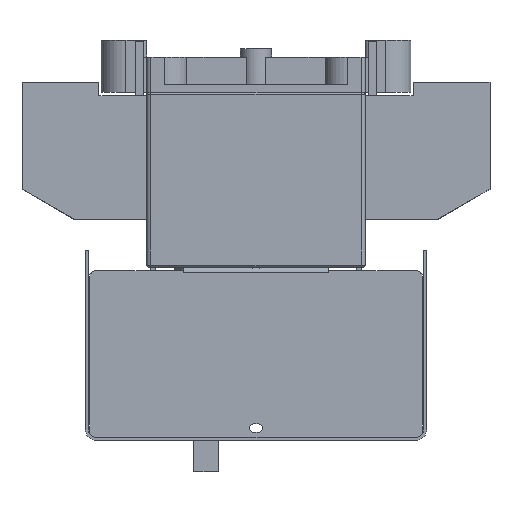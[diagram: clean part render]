
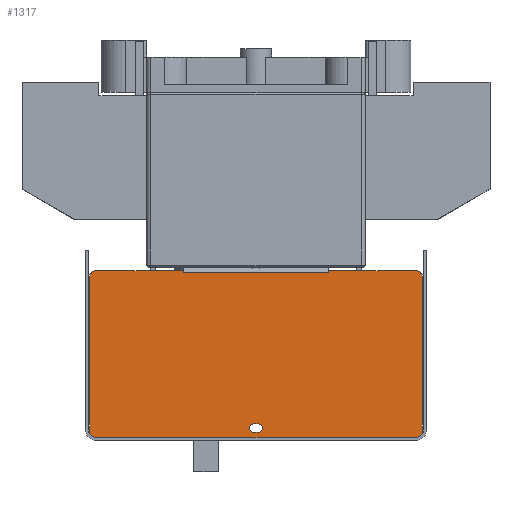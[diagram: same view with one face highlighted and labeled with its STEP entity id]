
A CAD part, left-side view. The second image highlights one B-rep face of the part: STEP entity #1317.
In plain terms, the highlighted planar face has unit normal (-1, 0, 0).
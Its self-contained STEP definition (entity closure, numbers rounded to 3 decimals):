
#170=FACE_BOUND('',#4623,.T.);
#171=FACE_BOUND('',#4624,.T.);
#1317=ADVANCED_FACE('',(#170,#171),#2323,.T.);
#2323=PLANE('',#24614);
#4623=EDGE_LOOP('',(#9527,#9528,#9529,#9530,#9531,#9532,#9533,#9534,#9535,
#9536,#9537,#9538,#9539,#9540));
#4624=EDGE_LOOP('',(#9541,#9542,#9543,#9544));
#5735=CIRCLE('',#24592,2.1);
#5737=CIRCLE('',#24596,2.1);
#5739=CIRCLE('',#24600,3.);
#5741=CIRCLE('',#24603,3.);
#5743=CIRCLE('',#24607,3.);
#5745=CIRCLE('',#24611,3.);
#9527=ORIENTED_EDGE('',*,*,#16787,.F.);
#9528=ORIENTED_EDGE('',*,*,#16788,.T.);
#9529=ORIENTED_EDGE('',*,*,#16789,.T.);
#9530=ORIENTED_EDGE('',*,*,#16790,.T.);
#9531=ORIENTED_EDGE('',*,*,#16791,.F.);
#9532=ORIENTED_EDGE('',*,*,#16779,.T.);
#9533=ORIENTED_EDGE('',*,*,#16784,.T.);
#9534=ORIENTED_EDGE('',*,*,#16767,.T.);
#9535=ORIENTED_EDGE('',*,*,#16770,.T.);
#9536=ORIENTED_EDGE('',*,*,#16745,.T.);
#9537=ORIENTED_EDGE('',*,*,#16773,.T.);
#9538=ORIENTED_EDGE('',*,*,#16776,.T.);
#9539=ORIENTED_EDGE('',*,*,#16778,.T.);
#9540=ORIENTED_EDGE('',*,*,#16753,.T.);
#9541=ORIENTED_EDGE('',*,*,#16757,.T.);
#9542=ORIENTED_EDGE('',*,*,#16761,.T.);
#9543=ORIENTED_EDGE('',*,*,#16764,.T.);
#9544=ORIENTED_EDGE('',*,*,#16786,.T.);
#13614=VERTEX_POINT('',#34399);
#13659=VERTEX_POINT('',#34496);
#13943=VERTEX_POINT('',#35587);
#13944=VERTEX_POINT('',#35589);
#13947=VERTEX_POINT('',#35596);
#13948=VERTEX_POINT('',#35598);
#13950=VERTEX_POINT('',#35604);
#13952=VERTEX_POINT('',#35610);
#13955=VERTEX_POINT('',#35617);
#13956=VERTEX_POINT('',#35619);
#13958=VERTEX_POINT('',#35628);
#13960=VERTEX_POINT('',#35634);
#13961=VERTEX_POINT('',#35641);
#13962=VERTEX_POINT('',#35642);
#13965=VERTEX_POINT('',#35656);
#13966=VERTEX_POINT('',#35658);
#13967=VERTEX_POINT('',#35660);
#13968=VERTEX_POINT('',#35662);
#16745=EDGE_CURVE('',#13614,#13659,#19687,.T.);
#16753=EDGE_CURVE('',#13944,#13943,#19694,.T.);
#16757=EDGE_CURVE('',#13948,#13947,#5735,.T.);
#16761=EDGE_CURVE('',#13947,#13950,#19700,.T.);
#16764=EDGE_CURVE('',#13950,#13952,#5737,.T.);
#16767=EDGE_CURVE('',#13956,#13955,#19704,.T.);
#16770=EDGE_CURVE('',#13955,#13614,#5739,.T.);
#16773=EDGE_CURVE('',#13659,#13958,#5741,.T.);
#16776=EDGE_CURVE('',#13958,#13960,#19709,.T.);
#16778=EDGE_CURVE('',#13960,#13944,#5743,.T.);
#16779=EDGE_CURVE('',#13961,#13962,#19710,.T.);
#16784=EDGE_CURVE('',#13962,#13956,#5745,.T.);
#16786=EDGE_CURVE('',#13952,#13948,#19715,.T.);
#16787=EDGE_CURVE('',#13965,#13943,#19716,.T.);
#16788=EDGE_CURVE('',#13965,#13966,#19717,.T.);
#16789=EDGE_CURVE('',#13966,#13967,#19718,.T.);
#16790=EDGE_CURVE('',#13967,#13968,#19719,.T.);
#16791=EDGE_CURVE('',#13961,#13968,#19720,.T.);
#19687=LINE('',#35570,#22277);
#19694=LINE('',#35588,#22284);
#19700=LINE('',#35605,#22290);
#19704=LINE('',#35618,#22294);
#19709=LINE('',#35635,#22299);
#19710=LINE('',#35640,#22300);
#19715=LINE('',#35653,#22305);
#19716=LINE('',#35655,#22306);
#19717=LINE('',#35657,#22307);
#19718=LINE('',#35659,#22308);
#19719=LINE('',#35661,#22309);
#19720=LINE('',#35663,#22310);
#22277=VECTOR('',#28897,1.);
#22284=VECTOR('',#28910,1.);
#22290=VECTOR('',#28924,1.);
#22294=VECTOR('',#28936,1.);
#22299=VECTOR('',#28955,1.);
#22300=VECTOR('',#28964,1.);
#22305=VECTOR('',#28977,1.);
#22306=VECTOR('',#28980,1.);
#22307=VECTOR('',#28981,1.);
#22308=VECTOR('',#28982,1.);
#22309=VECTOR('',#28983,1.);
#22310=VECTOR('',#28984,1.);
#24592=AXIS2_PLACEMENT_3D('',#35597,#28917,#28918);
#24596=AXIS2_PLACEMENT_3D('',#35611,#28930,#28931);
#24600=AXIS2_PLACEMENT_3D('',#35623,#28942,#28943);
#24603=AXIS2_PLACEMENT_3D('',#35629,#28949,#28950);
#24607=AXIS2_PLACEMENT_3D('',#35638,#28960,#28961);
#24611=AXIS2_PLACEMENT_3D('',#35650,#28972,#28973);
#24614=AXIS2_PLACEMENT_3D('',#35664,#28985,#28986);
#28897=DIRECTION('',(0.,-1.,0.));
#28910=DIRECTION('',(0.,1.,0.));
#28917=DIRECTION('',(1.,0.,0.));
#28918=DIRECTION('',(0.,1.,0.));
#28924=DIRECTION('',(0.,-1.,0.));
#28930=DIRECTION('',(1.,0.,0.));
#28931=DIRECTION('',(0.,1.,0.));
#28936=DIRECTION('',(0.,0.,-1.));
#28942=DIRECTION('',(-1.,0.,0.));
#28943=DIRECTION('',(0.,1.,0.));
#28949=DIRECTION('',(-1.,0.,0.));
#28950=DIRECTION('',(0.,1.,0.));
#28955=DIRECTION('',(0.,0.,1.));
#28960=DIRECTION('',(-1.,0.,0.));
#28961=DIRECTION('',(0.,1.,0.));
#28964=DIRECTION('',(0.,1.,0.));
#28972=DIRECTION('',(-1.,0.,0.));
#28973=DIRECTION('',(0.,1.,0.));
#28977=DIRECTION('',(0.,1.,0.));
#28980=DIRECTION('',(0.,0.,1.));
#28981=DIRECTION('',(0.,1.,0.));
#28982=DIRECTION('',(0.,1.,0.));
#28983=DIRECTION('',(0.,1.,0.));
#28984=DIRECTION('',(0.,0.,-1.));
#28985=DIRECTION('',(-1.,0.,0.));
#28986=DIRECTION('',(0.,-1.,0.));
#34399=CARTESIAN_POINT('',(-189.3,77.,-165.8));
#34496=CARTESIAN_POINT('',(-189.3,-77.,-165.8));
#35570=CARTESIAN_POINT('',(-189.3,77.,-165.8));
#35587=CARTESIAN_POINT('',(-189.3,-35.002,-85.8));
#35588=CARTESIAN_POINT('',(-189.3,-77.,-85.8));
#35589=CARTESIAN_POINT('',(-189.3,-77.,-85.8));
#35596=CARTESIAN_POINT('',(-189.3,1.,-159.3));
#35597=CARTESIAN_POINT('',(-189.3,1.,-161.4));
#35598=CARTESIAN_POINT('',(-189.3,1.,-163.5));
#35604=CARTESIAN_POINT('',(-189.3,-1.,-159.3));
#35605=CARTESIAN_POINT('',(-189.3,1.,-159.3));
#35610=CARTESIAN_POINT('',(-189.3,-1.,-163.5));
#35611=CARTESIAN_POINT('',(-189.3,-1.,-161.4));
#35617=CARTESIAN_POINT('',(-189.3,80.,-162.8));
#35618=CARTESIAN_POINT('',(-189.3,80.,-88.8));
#35619=CARTESIAN_POINT('',(-189.3,80.,-88.8));
#35623=CARTESIAN_POINT('',(-189.3,77.,-162.8));
#35628=CARTESIAN_POINT('',(-189.3,-80.,-162.8));
#35629=CARTESIAN_POINT('',(-189.3,-77.,-162.8));
#35634=CARTESIAN_POINT('',(-189.3,-80.,-88.8));
#35635=CARTESIAN_POINT('',(-189.3,-80.,-162.8));
#35638=CARTESIAN_POINT('',(-189.3,-77.,-88.8));
#35640=CARTESIAN_POINT('',(-189.3,-77.,-85.8));
#35641=CARTESIAN_POINT('',(-189.3,35.002,-85.8));
#35642=CARTESIAN_POINT('',(-189.3,77.,-85.8));
#35650=CARTESIAN_POINT('',(-189.3,77.,-88.8));
#35653=CARTESIAN_POINT('',(-189.3,-1.,-163.5));
#35655=CARTESIAN_POINT('',(-189.3,-35.002,-162.8));
#35656=CARTESIAN_POINT('',(-189.3,-35.002,-86.8));
#35657=CARTESIAN_POINT('',(-189.3,77.,-86.8));
#35658=CARTESIAN_POINT('',(-189.3,-35.,-86.8));
#35659=CARTESIAN_POINT('',(-189.3,50.5,-86.8));
#35660=CARTESIAN_POINT('',(-189.3,35.,-86.8));
#35661=CARTESIAN_POINT('',(-189.3,77.,-86.8));
#35662=CARTESIAN_POINT('',(-189.3,35.002,-86.8));
#35663=CARTESIAN_POINT('',(-189.3,35.002,-162.8));
#35664=CARTESIAN_POINT('',(-189.3,77.,-162.8));
